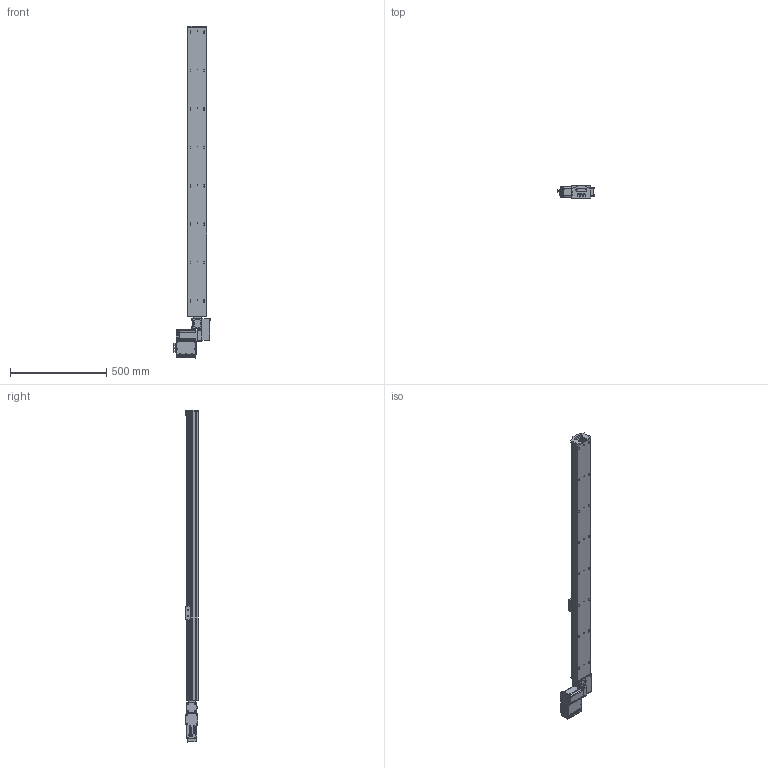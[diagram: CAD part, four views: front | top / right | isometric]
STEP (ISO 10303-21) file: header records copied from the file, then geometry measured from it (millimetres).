
FILE_DESCRIPTION (( 'STEP AP203' ), '1' );
FILE_NAME ('S10 TBN LH S1600.STEP', '2012-12-07T12:36:50', ( 'Conseil Régional Haute-Normandie' ), ( 'Conseil Régional Haute-Normandie' ), 'SwSTEP 2.0', 'SolidWorks 2010', '' );
FILE_SCHEMA (( 'CONFIG_CONTROL_DESIGN' ));
Products named in the file (30): axe 1500; BU45 Carte d''axe A11_5; Moteur 60BLDC90A_3; Couvercle_3; Colonnette ronde_3; Radiateur profil_X2_00E9_X0_ 100x25_3; Cvis M5 L30_Default; cache t皻e_Default; embout; vis M5 L12_Default; Vis M5 L16-2_Default_1; S10 TBN LH S1600; axe 1600_Default; Assem1_7; T_X2_00F4_X0_le contre le moteur_5; BU41 Carte Alimentation P05_3; Colonnette_3; T_X2_00F4_X0_le fond_3; Connecteur rond D10 3cts_5; Connecteur rond D12 4cts_5; Sub D 9cts 90_X2_00B_X0__3; T_X2_00F4_X0_le Arri_X2_00E8_X0_re_5; T_X2_00F4_X0_le lat_X2_00E9_X0_rale_5; Vis TF 3 torkx_1_1; cache t皻e axe_Default; palette tbn; plaque de bout s10_Default; Plaque racord_Default; renvoi LH_Default; vis M5 L5_Default
Assembly tree (63 placements, depth 3):
  S10 TBN LH S1600
    cache t皻e axe_Default
    vis M5 L5_Default  x4
    vis M5 L12_Default  x4
    Cvis M5 L30_Default  x2
    Vis M5 L16-2_Default_1  x4
    axe 1600_Default
      axe 1500
    cache t皻e_Default  x2
    palette tbn
    Assem1_7
      Connecteur rond D10 3cts_5  x2
      Vis TF 3 torkx_1_1  x21
      Colonnette_3  x2
      Sub D 9cts 90_X2_00B_X0__3
      BU45 Carte d''axe A11_5
      T_X2_00F4_X0_le fond_3
      Connecteur rond D12 4cts_5
      Colonnette ronde_3
      Moteur 60BLDC90A_3
      Couvercle_3
      T_X2_00F4_X0_le lat_X2_00E9_X0_rale_5  x2
      Radiateur profil_X2_00E9_X0_ 100x25_3
      T_X2_00F4_X0_le Arri_X2_00E8_X0_re_5
      T_X2_00F4_X0_le contre le moteur_5
      BU41 Carte Alimentation P05_3
    Plaque racord_Default
    embout
    plaque de bout s10_Default
    renvoi LH_Default
Bounding box: 189.8 x 66.75 x 1728.5 mm (x, y, z)
Volume: 8607494.6 mm3; surface area: 1025311.3 mm2
Topology: 61 solids, 61 shells, 2299 faces, 5703 edges, 3682 vertices
Faces by surface type: plane 1096, cylinder 986, cone 174, bspline 40, torus 3
Entity records: 47869 total; most frequent: CARTESIAN_POINT 8624, DIRECTION 7706, ORIENTED_EDGE 7002, EDGE_CURVE 3501, AXIS2_PLACEMENT_3D 2863, VERTEX_POINT 2286, VECTOR 1980, LINE 1980
